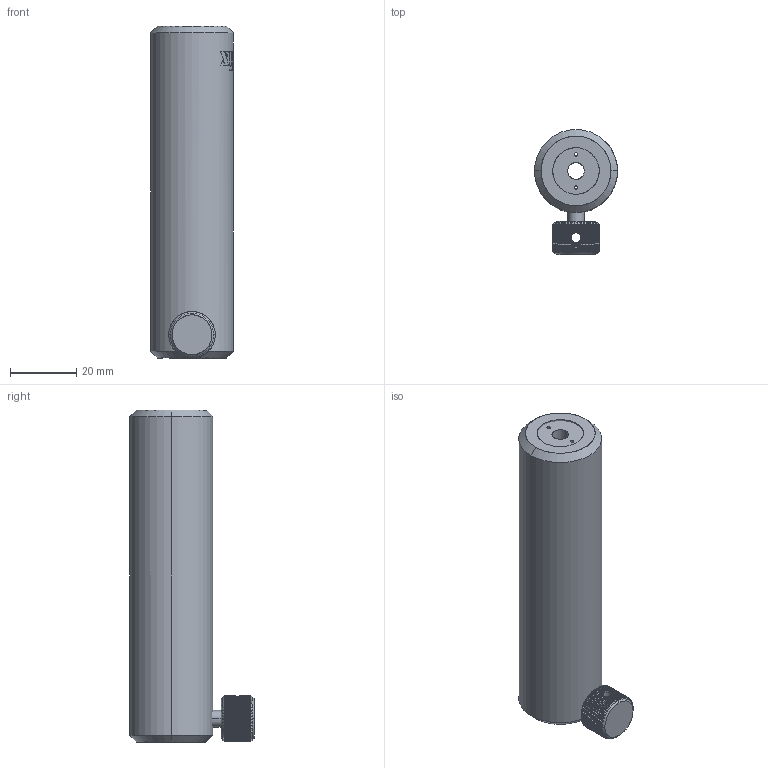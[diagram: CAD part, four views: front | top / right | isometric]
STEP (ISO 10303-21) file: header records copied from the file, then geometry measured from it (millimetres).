
FILE_DESCRIPTION (( 'STEP AP203' ), '1' );
FILE_NAME ('PHSH-4.STEP', '2019-05-10T02:25:50', ( '' ), ( '' ), 'SwSTEP 2.0', 'SolidWorks 2016', '' );
FILE_SCHEMA (( 'CONFIG_CONTROL_DESIGN' ));
Length unit declared in the file: millimetre
Products named in the file (1): PHSH-4
Bounding box: 25 x 37.5 x 100 mm (x, y, z)
Surface area: 11838.4 mm2 (no closed solid volume)
Topology: 0 solids, 354 shells, 359 faces, 2299 edges, 2294 vertices
Faces by surface type: plane 206, cylinder 132, bspline 11, cone 10
Entity records: 24401 total; most frequent: CARTESIAN_POINT 9550, ORIENTED_EDGE 2304, EDGE_CURVE 2299, VERTEX_POINT 2294, DIRECTION 2267, B_SPLINE_CURVE_WITH_KNOTS 1164, AXIS2_PLACEMENT_3D 783, VECTOR 701
